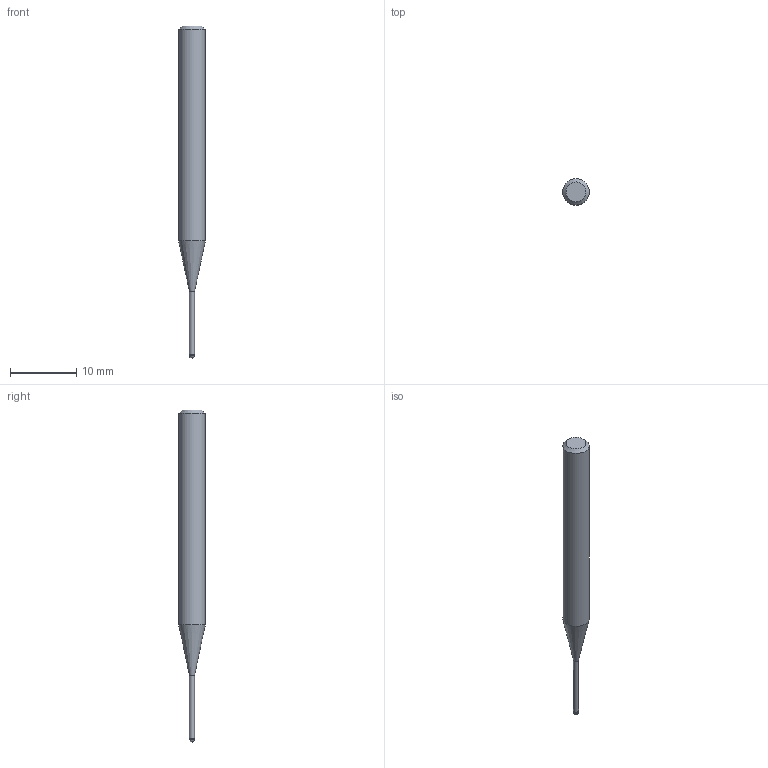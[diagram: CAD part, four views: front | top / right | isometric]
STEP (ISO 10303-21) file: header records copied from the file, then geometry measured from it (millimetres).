
FILE_DESCRIPTION((''),'2;1');
FILE_NAME('C:\Users\nsx150\AppData\Local\Temp\Mastercam 2021\ZXBT0ST9RL\TEMP.step','2021-06-25T11:02:47',(''),(''),'STEP Write','Mastercam 2021 ... CNC Software, Inc.','');
FILE_SCHEMA(('AUTOMOTIVE_DESIGN'));
Length unit declared in the file: millimetre
Products named in the file (1): None
Bounding box: 4 x 4 x 50 mm (x, y, z)
Volume: 449.1 mm3; surface area: 498.6 mm2
Topology: 2 solids, 2 shells, 9 faces, 14 edges, 8 vertices
Faces by surface type: plane 3, cylinder 3, cone 2, sphere 1
Full cylindrical faces by diameter (mm): 0.76 x1, 0.8 x1, 4 x1
Entity records: 211 total; most frequent: DIRECTION 36, CARTESIAN_POINT 25, AXIS2_PLACEMENT_3D 18, ORIENTED_EDGE 14, EDGE_LOOP 14, STYLED_ITEM 12, ADVANCED_FACE 9, FACE_BOUND 8
